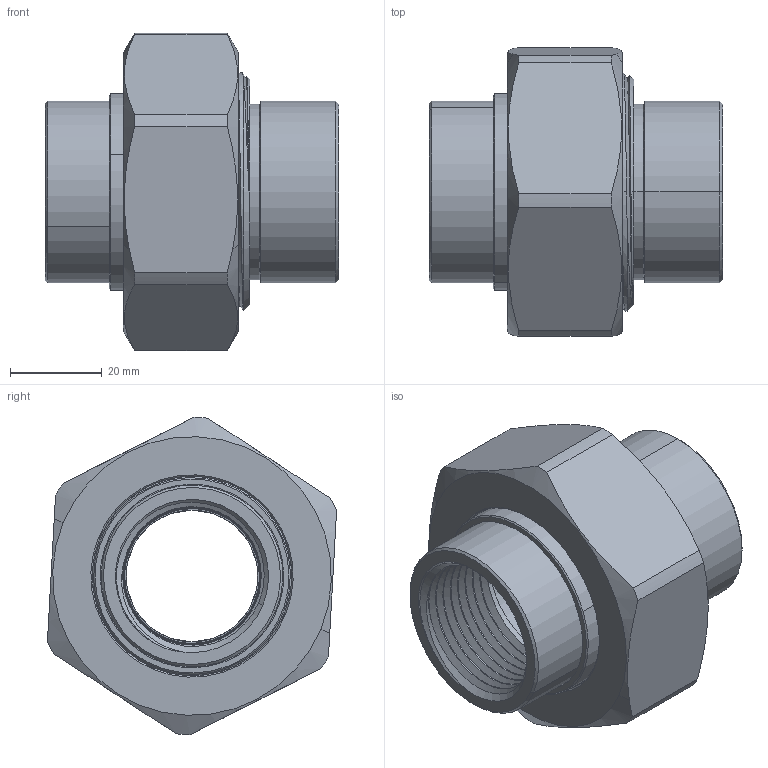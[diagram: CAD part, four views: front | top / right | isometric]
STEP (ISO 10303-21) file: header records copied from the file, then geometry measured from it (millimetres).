
FILE_DESCRIPTION (( 'STEP AP203' ), '1' );
FILE_NAME ('701-405.STEP', '2022-03-21T05:04:45', ( '' ), ( '' ), 'SwSTEP 2.0', 'SolidWorks 2012', '' );
FILE_SCHEMA (( 'CONFIG_CONTROL_DESIGN' ));
Length unit declared in the file: millimetre
Products named in the file (6): 呿蹋杶; 鞠褒簽; 菜え; 内牙接头（网纹滚花）; 701-405; 铁内牙接头（放在尼龙隔套里面）
Assembly tree (5 placements, depth 2):
  701-405
    鞠褒簽
    菜え
    呿蹋杶
    内牙接头（网纹滚花）
    铁内牙接头（放在尼龙隔套里面）
Bounding box: 63.8 x 62.87 x 69 mm (x, y, z)
Volume: 81112.5 mm3; surface area: 44170.9 mm2
Topology: 5 solids, 5 shells, 169 faces, 429 edges, 276 vertices
Faces by surface type: cone 78, cylinder 54, plane 25, bspline 8, torus 4
Entity records: 13439 total; most frequent: CARTESIAN_POINT 9021, ORIENTED_EDGE 858, DIRECTION 716, EDGE_CURVE 429, AXIS2_PLACEMENT_3D 286, VERTEX_POINT 276, EDGE_LOOP 185, ADVANCED_FACE 169
